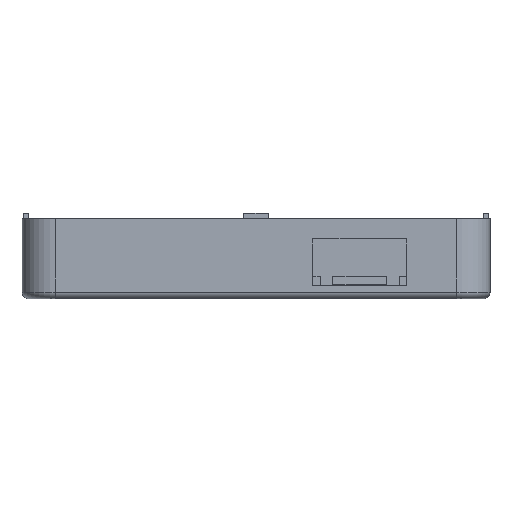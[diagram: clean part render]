
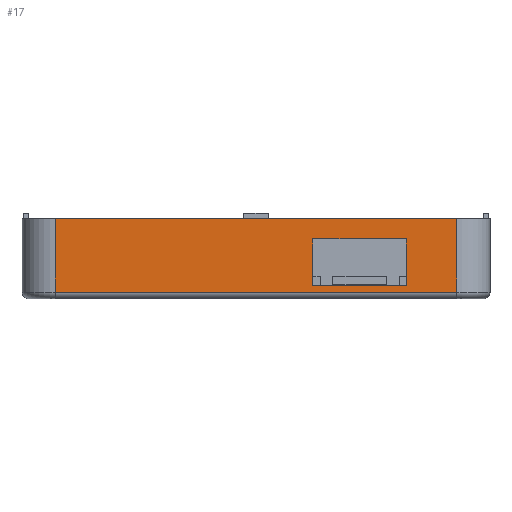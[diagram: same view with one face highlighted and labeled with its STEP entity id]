
A CAD part, left-side view. The second image highlights one B-rep face of the part: STEP entity #17.
In plain terms, the highlighted planar face has unit normal (-1, 0, 0).
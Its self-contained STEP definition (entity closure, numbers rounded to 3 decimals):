
#17 = ADVANCED_FACE('',(#18,#137),#32,.F.);
#18 = FACE_BOUND('',#19,.F.);
#19 = EDGE_LOOP('',(#20,#55,#83,#111));
#20 = ORIENTED_EDGE('',*,*,#21,.F.);
#21 = EDGE_CURVE('',#22,#24,#26,.T.);
#22 = VERTEX_POINT('',#23);
#23 = CARTESIAN_POINT('',(-35.,-30.,-11.));
#24 = VERTEX_POINT('',#25);
#25 = CARTESIAN_POINT('',(-35.,-30.,0.));
#26 = SURFACE_CURVE('',#27,(#31,#43),.PCURVE_S1.);
#27 = LINE('',#28,#29);
#28 = CARTESIAN_POINT('',(-35.,-30.,-11.));
#29 = VECTOR('',#30,1.);
#30 = DIRECTION('',(0.,0.,1.));
#31 = PCURVE('',#32,#37);
#32 = PLANE('',#33);
#33 = AXIS2_PLACEMENT_3D('',#34,#35,#36);
#34 = CARTESIAN_POINT('',(-35.,-35.,-12.));
#35 = DIRECTION('',(1.,0.,0.));
#36 = DIRECTION('',(0.,0.,1.));
#37 = DEFINITIONAL_REPRESENTATION('',(#38),#42);
#38 = LINE('',#39,#40);
#39 = CARTESIAN_POINT('',(1.,-5.));
#40 = VECTOR('',#41,1.);
#41 = DIRECTION('',(1.,0.));
#42 = ( GEOMETRIC_REPRESENTATION_CONTEXT(2) 
PARAMETRIC_REPRESENTATION_CONTEXT() REPRESENTATION_CONTEXT('2D SPACE',''
  ) );
#43 = PCURVE('',#44,#49);
#44 = CYLINDRICAL_SURFACE('',#45,5.);
#45 = AXIS2_PLACEMENT_3D('',#46,#47,#48);
#46 = CARTESIAN_POINT('',(-30.,-30.,-12.));
#47 = DIRECTION('',(0.,0.,1.));
#48 = DIRECTION('',(-1.,-0.,0.));
#49 = DEFINITIONAL_REPRESENTATION('',(#50),#54);
#50 = LINE('',#51,#52);
#51 = CARTESIAN_POINT('',(0.,1.));
#52 = VECTOR('',#53,1.);
#53 = DIRECTION('',(0.,1.));
#54 = ( GEOMETRIC_REPRESENTATION_CONTEXT(2) 
PARAMETRIC_REPRESENTATION_CONTEXT() REPRESENTATION_CONTEXT('2D SPACE',''
  ) );
#55 = ORIENTED_EDGE('',*,*,#56,.F.);
#56 = EDGE_CURVE('',#57,#22,#59,.T.);
#57 = VERTEX_POINT('',#58);
#58 = CARTESIAN_POINT('',(-35.,30.,-11.));
#59 = SURFACE_CURVE('',#60,(#64,#71),.PCURVE_S1.);
#60 = LINE('',#61,#62);
#61 = CARTESIAN_POINT('',(-35.,30.,-11.));
#62 = VECTOR('',#63,1.);
#63 = DIRECTION('',(-0.,-1.,-0.));
#64 = PCURVE('',#32,#65);
#65 = DEFINITIONAL_REPRESENTATION('',(#66),#70);
#66 = LINE('',#67,#68);
#67 = CARTESIAN_POINT('',(1.,-65.));
#68 = VECTOR('',#69,1.);
#69 = DIRECTION('',(0.,1.));
#70 = ( GEOMETRIC_REPRESENTATION_CONTEXT(2) 
PARAMETRIC_REPRESENTATION_CONTEXT() REPRESENTATION_CONTEXT('2D SPACE',''
  ) );
#71 = PCURVE('',#72,#77);
#72 = CYLINDRICAL_SURFACE('',#73,1.);
#73 = AXIS2_PLACEMENT_3D('',#74,#75,#76);
#74 = CARTESIAN_POINT('',(-34.,30.,-11.));
#75 = DIRECTION('',(-0.,-1.,-0.));
#76 = DIRECTION('',(-1.,0.,0.));
#77 = DEFINITIONAL_REPRESENTATION('',(#78),#82);
#78 = LINE('',#79,#80);
#79 = CARTESIAN_POINT('',(0.,0.));
#80 = VECTOR('',#81,1.);
#81 = DIRECTION('',(0.,1.));
#82 = ( GEOMETRIC_REPRESENTATION_CONTEXT(2) 
PARAMETRIC_REPRESENTATION_CONTEXT() REPRESENTATION_CONTEXT('2D SPACE',''
  ) );
#83 = ORIENTED_EDGE('',*,*,#84,.T.);
#84 = EDGE_CURVE('',#57,#85,#87,.T.);
#85 = VERTEX_POINT('',#86);
#86 = CARTESIAN_POINT('',(-35.,30.,0.));
#87 = SURFACE_CURVE('',#88,(#92,#99),.PCURVE_S1.);
#88 = LINE('',#89,#90);
#89 = CARTESIAN_POINT('',(-35.,30.,-12.));
#90 = VECTOR('',#91,1.);
#91 = DIRECTION('',(0.,0.,1.));
#92 = PCURVE('',#32,#93);
#93 = DEFINITIONAL_REPRESENTATION('',(#94),#98);
#94 = LINE('',#95,#96);
#95 = CARTESIAN_POINT('',(0.,-65.));
#96 = VECTOR('',#97,1.);
#97 = DIRECTION('',(1.,0.));
#98 = ( GEOMETRIC_REPRESENTATION_CONTEXT(2) 
PARAMETRIC_REPRESENTATION_CONTEXT() REPRESENTATION_CONTEXT('2D SPACE',''
  ) );
#99 = PCURVE('',#100,#105);
#100 = CYLINDRICAL_SURFACE('',#101,5.);
#101 = AXIS2_PLACEMENT_3D('',#102,#103,#104);
#102 = CARTESIAN_POINT('',(-30.,30.,-12.));
#103 = DIRECTION('',(0.,0.,1.));
#104 = DIRECTION('',(-1.,-0.,0.));
#105 = DEFINITIONAL_REPRESENTATION('',(#106),#110);
#106 = LINE('',#107,#108);
#107 = CARTESIAN_POINT('',(-0.,0.));
#108 = VECTOR('',#109,1.);
#109 = DIRECTION('',(-0.,1.));
#110 = ( GEOMETRIC_REPRESENTATION_CONTEXT(2) 
PARAMETRIC_REPRESENTATION_CONTEXT() REPRESENTATION_CONTEXT('2D SPACE',''
  ) );
#111 = ORIENTED_EDGE('',*,*,#112,.F.);
#112 = EDGE_CURVE('',#24,#85,#113,.T.);
#113 = SURFACE_CURVE('',#114,(#118,#125),.PCURVE_S1.);
#114 = LINE('',#115,#116);
#115 = CARTESIAN_POINT('',(-35.,-30.1,0.));
#116 = VECTOR('',#117,1.);
#117 = DIRECTION('',(0.,1.,0.));
#118 = PCURVE('',#32,#119);
#119 = DEFINITIONAL_REPRESENTATION('',(#120),#124);
#120 = LINE('',#121,#122);
#121 = CARTESIAN_POINT('',(12.,-4.9));
#122 = VECTOR('',#123,1.);
#123 = DIRECTION('',(0.,-1.));
#124 = ( GEOMETRIC_REPRESENTATION_CONTEXT(2) 
PARAMETRIC_REPRESENTATION_CONTEXT() REPRESENTATION_CONTEXT('2D SPACE',''
  ) );
#125 = PCURVE('',#126,#131);
#126 = PLANE('',#127);
#127 = AXIS2_PLACEMENT_3D('',#128,#129,#130);
#128 = CARTESIAN_POINT('',(-35.,-35.,0.));
#129 = DIRECTION('',(0.,0.,1.));
#130 = DIRECTION('',(1.,0.,0.));
#131 = DEFINITIONAL_REPRESENTATION('',(#132),#136);
#132 = LINE('',#133,#134);
#133 = CARTESIAN_POINT('',(0.,4.9));
#134 = VECTOR('',#135,1.);
#135 = DIRECTION('',(0.,1.));
#136 = ( GEOMETRIC_REPRESENTATION_CONTEXT(2) 
PARAMETRIC_REPRESENTATION_CONTEXT() REPRESENTATION_CONTEXT('2D SPACE',''
  ) );
#137 = FACE_BOUND('',#138,.F.);
#138 = EDGE_LOOP('',(#139,#167,#193,#219));
#139 = ORIENTED_EDGE('',*,*,#140,.T.);
#140 = EDGE_CURVE('',#141,#143,#145,.T.);
#141 = VERTEX_POINT('',#142);
#142 = CARTESIAN_POINT('',(-35.,-8.5,-10.045));
#143 = VERTEX_POINT('',#144);
#144 = CARTESIAN_POINT('',(-35.,-22.5,-10.045));
#145 = SURFACE_CURVE('',#146,(#150,#156),.PCURVE_S1.);
#146 = LINE('',#147,#148);
#147 = CARTESIAN_POINT('',(-35.,-28.75,-10.045));
#148 = VECTOR('',#149,1.);
#149 = DIRECTION('',(0.,-1.,0.));
#150 = PCURVE('',#32,#151);
#151 = DEFINITIONAL_REPRESENTATION('',(#152),#155);
#152 = B_SPLINE_CURVE_WITH_KNOTS('',1,(#153,#154),.UNSPECIFIED.,.F.,.F.,
  (2,2),(-20.25,-6.25),.PIECEWISE_BEZIER_KNOTS.);
#153 = CARTESIAN_POINT('',(1.955,-26.5));
#154 = CARTESIAN_POINT('',(1.955,-12.5));
#155 = ( GEOMETRIC_REPRESENTATION_CONTEXT(2) 
PARAMETRIC_REPRESENTATION_CONTEXT() REPRESENTATION_CONTEXT('2D SPACE',''
  ) );
#156 = PCURVE('',#157,#162);
#157 = PLANE('',#158);
#158 = AXIS2_PLACEMENT_3D('',#159,#160,#161);
#159 = CARTESIAN_POINT('',(-38.,-22.5,-10.045));
#160 = DIRECTION('',(0.,0.,1.));
#161 = DIRECTION('',(1.,0.,0.));
#162 = DEFINITIONAL_REPRESENTATION('',(#163),#166);
#163 = B_SPLINE_CURVE_WITH_KNOTS('',1,(#164,#165),.UNSPECIFIED.,.F.,.F.,
  (2,2),(-20.25,-6.25),.PIECEWISE_BEZIER_KNOTS.);
#164 = CARTESIAN_POINT('',(3.,14.));
#165 = CARTESIAN_POINT('',(3.,0.));
#166 = ( GEOMETRIC_REPRESENTATION_CONTEXT(2) 
PARAMETRIC_REPRESENTATION_CONTEXT() REPRESENTATION_CONTEXT('2D SPACE',''
  ) );
#167 = ORIENTED_EDGE('',*,*,#168,.T.);
#168 = EDGE_CURVE('',#143,#169,#171,.T.);
#169 = VERTEX_POINT('',#170);
#170 = CARTESIAN_POINT('',(-35.,-22.5,-3.045));
#171 = SURFACE_CURVE('',#172,(#176,#182),.PCURVE_S1.);
#172 = LINE('',#173,#174);
#173 = CARTESIAN_POINT('',(-35.,-22.5,-11.023));
#174 = VECTOR('',#175,1.);
#175 = DIRECTION('',(0.,0.,1.));
#176 = PCURVE('',#32,#177);
#177 = DEFINITIONAL_REPRESENTATION('',(#178),#181);
#178 = B_SPLINE_CURVE_WITH_KNOTS('',1,(#179,#180),.UNSPECIFIED.,.F.,.F.,
  (2,2),(0.978,7.978),.PIECEWISE_BEZIER_KNOTS.);
#179 = CARTESIAN_POINT('',(1.955,-12.5));
#180 = CARTESIAN_POINT('',(8.955,-12.5));
#181 = ( GEOMETRIC_REPRESENTATION_CONTEXT(2) 
PARAMETRIC_REPRESENTATION_CONTEXT() REPRESENTATION_CONTEXT('2D SPACE',''
  ) );
#182 = PCURVE('',#183,#188);
#183 = PLANE('',#184);
#184 = AXIS2_PLACEMENT_3D('',#185,#186,#187);
#185 = CARTESIAN_POINT('',(-38.,-22.5,-10.045));
#186 = DIRECTION('',(0.,1.,0.));
#187 = DIRECTION('',(0.,0.,1.));
#188 = DEFINITIONAL_REPRESENTATION('',(#189),#192);
#189 = B_SPLINE_CURVE_WITH_KNOTS('',1,(#190,#191),.UNSPECIFIED.,.F.,.F.,
  (2,2),(0.978,7.978),.PIECEWISE_BEZIER_KNOTS.);
#190 = CARTESIAN_POINT('',(0.,3.));
#191 = CARTESIAN_POINT('',(7.,3.));
#192 = ( GEOMETRIC_REPRESENTATION_CONTEXT(2) 
PARAMETRIC_REPRESENTATION_CONTEXT() REPRESENTATION_CONTEXT('2D SPACE',''
  ) );
#193 = ORIENTED_EDGE('',*,*,#194,.F.);
#194 = EDGE_CURVE('',#195,#169,#197,.T.);
#195 = VERTEX_POINT('',#196);
#196 = CARTESIAN_POINT('',(-35.,-8.5,-3.045));
#197 = SURFACE_CURVE('',#198,(#202,#208),.PCURVE_S1.);
#198 = LINE('',#199,#200);
#199 = CARTESIAN_POINT('',(-35.,-28.75,-3.045));
#200 = VECTOR('',#201,1.);
#201 = DIRECTION('',(0.,-1.,0.));
#202 = PCURVE('',#32,#203);
#203 = DEFINITIONAL_REPRESENTATION('',(#204),#207);
#204 = B_SPLINE_CURVE_WITH_KNOTS('',1,(#205,#206),.UNSPECIFIED.,.F.,.F.,
  (2,2),(-20.25,-6.25),.PIECEWISE_BEZIER_KNOTS.);
#205 = CARTESIAN_POINT('',(8.955,-26.5));
#206 = CARTESIAN_POINT('',(8.955,-12.5));
#207 = ( GEOMETRIC_REPRESENTATION_CONTEXT(2) 
PARAMETRIC_REPRESENTATION_CONTEXT() REPRESENTATION_CONTEXT('2D SPACE',''
  ) );
#208 = PCURVE('',#209,#214);
#209 = PLANE('',#210);
#210 = AXIS2_PLACEMENT_3D('',#211,#212,#213);
#211 = CARTESIAN_POINT('',(-38.,-22.5,-3.045));
#212 = DIRECTION('',(0.,0.,1.));
#213 = DIRECTION('',(1.,0.,0.));
#214 = DEFINITIONAL_REPRESENTATION('',(#215),#218);
#215 = B_SPLINE_CURVE_WITH_KNOTS('',1,(#216,#217),.UNSPECIFIED.,.F.,.F.,
  (2,2),(-20.25,-6.25),.PIECEWISE_BEZIER_KNOTS.);
#216 = CARTESIAN_POINT('',(3.,14.));
#217 = CARTESIAN_POINT('',(3.,0.));
#218 = ( GEOMETRIC_REPRESENTATION_CONTEXT(2) 
PARAMETRIC_REPRESENTATION_CONTEXT() REPRESENTATION_CONTEXT('2D SPACE',''
  ) );
#219 = ORIENTED_EDGE('',*,*,#220,.F.);
#220 = EDGE_CURVE('',#141,#195,#221,.T.);
#221 = SURFACE_CURVE('',#222,(#226,#232),.PCURVE_S1.);
#222 = LINE('',#223,#224);
#223 = CARTESIAN_POINT('',(-35.,-8.5,-11.023));
#224 = VECTOR('',#225,1.);
#225 = DIRECTION('',(0.,0.,1.));
#226 = PCURVE('',#32,#227);
#227 = DEFINITIONAL_REPRESENTATION('',(#228),#231);
#228 = B_SPLINE_CURVE_WITH_KNOTS('',1,(#229,#230),.UNSPECIFIED.,.F.,.F.,
  (2,2),(0.978,7.978),.PIECEWISE_BEZIER_KNOTS.);
#229 = CARTESIAN_POINT('',(1.955,-26.5));
#230 = CARTESIAN_POINT('',(8.955,-26.5));
#231 = ( GEOMETRIC_REPRESENTATION_CONTEXT(2) 
PARAMETRIC_REPRESENTATION_CONTEXT() REPRESENTATION_CONTEXT('2D SPACE',''
  ) );
#232 = PCURVE('',#233,#238);
#233 = PLANE('',#234);
#234 = AXIS2_PLACEMENT_3D('',#235,#236,#237);
#235 = CARTESIAN_POINT('',(-38.,-8.5,-10.045));
#236 = DIRECTION('',(0.,1.,0.));
#237 = DIRECTION('',(0.,0.,1.));
#238 = DEFINITIONAL_REPRESENTATION('',(#239),#242);
#239 = B_SPLINE_CURVE_WITH_KNOTS('',1,(#240,#241),.UNSPECIFIED.,.F.,.F.,
  (2,2),(0.978,7.978),.PIECEWISE_BEZIER_KNOTS.);
#240 = CARTESIAN_POINT('',(0.,3.));
#241 = CARTESIAN_POINT('',(7.,3.));
#242 = ( GEOMETRIC_REPRESENTATION_CONTEXT(2) 
PARAMETRIC_REPRESENTATION_CONTEXT() REPRESENTATION_CONTEXT('2D SPACE',''
  ) );
